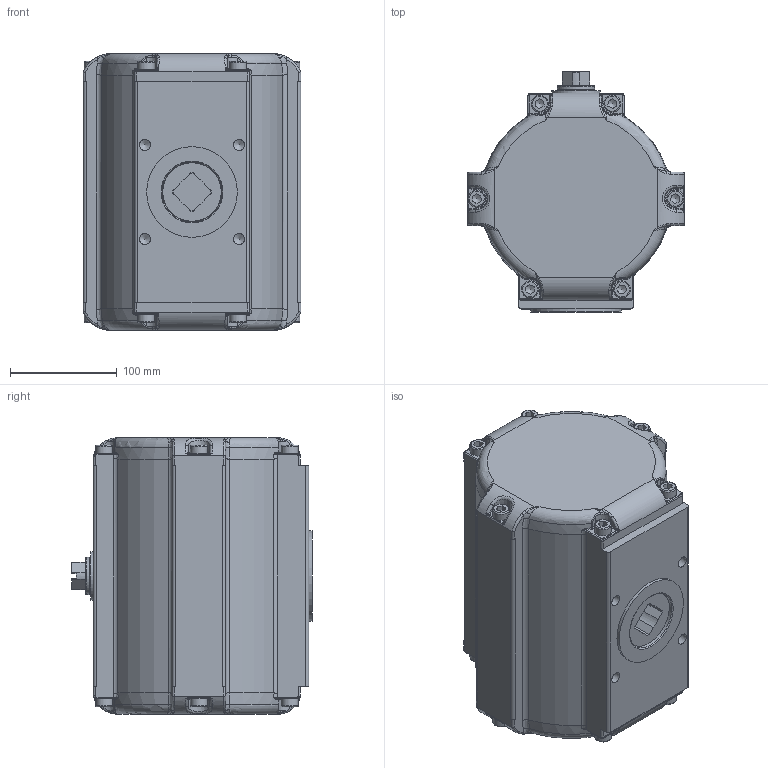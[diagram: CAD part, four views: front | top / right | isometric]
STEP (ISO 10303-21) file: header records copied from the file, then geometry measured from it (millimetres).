
FILE_DESCRIPTION(/* description */ (''),/* implementation_level */ '2;1');
FILE_NAME(/* name */ 'C:\Users\war\Desktop\BR03C_SAD_33.stp',/* time_stamp */ '2021-05-05T09:55:21+02:00',/* author */ ('war'),/* organization */ (''),/* preprocessor_version */ 'ST-DEVELOPER v18.1',/* originating_system */ 'Autodesk Inventor 2021',/* authorisation */ '');
FILE_SCHEMA (('AUTOMOTIVE_DESIGN { 1 0 10303 214 3 1 1 }'));
Products named in the file (1): ENG-028613_Shrinkwrap_1
Bounding box: 204 x 225 x 259.2 mm (x, y, z)
Volume: 2977048.8 mm3; surface area: 487993.7 mm2
Topology: 2 solids, 2 shells, 1509 faces, 3897 edges, 2339 vertices
Faces by surface type: bspline 405, cylinder 343, plane 326, torus 293, cone 126, sphere 16
Full cylindrical faces by diameter (mm): 4.134 x8, 4.917 x1, 5 x2, 10.376 x4, 11.445 x2, 16 x12, 25 x4, 26 x1, 30.8 x1, 31 x1, 32.5 x1, 34.8 x3, 35 x2, 35.1 x1, 36.5 x1, 37 x12, 40 x1, 43 x1, 45 x1, 50.9 x1, 51 x1, 55.8 x3, 56 x2, 85 x1, 161 x1, 165 x2
Entity records: 63935 total; most frequent: CARTESIAN_POINT 29547, ORIENTED_EDGE 7568, DIRECTION 5852, EDGE_CURVE 3784, AXIS2_PLACEMENT_3D 2489, VERTEX_POINT 2339, EDGE_LOOP 1583, STYLED_ITEM 1511
